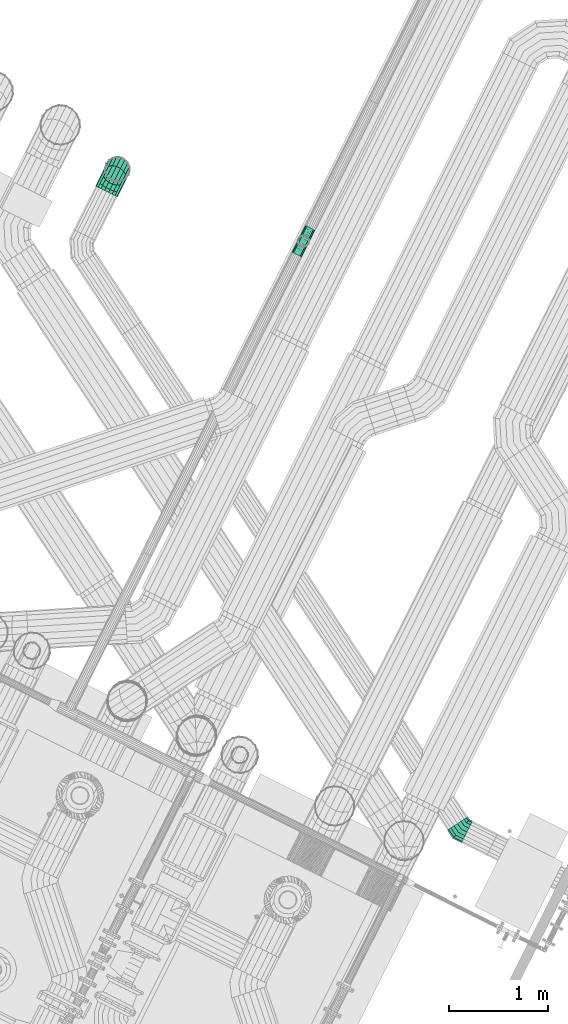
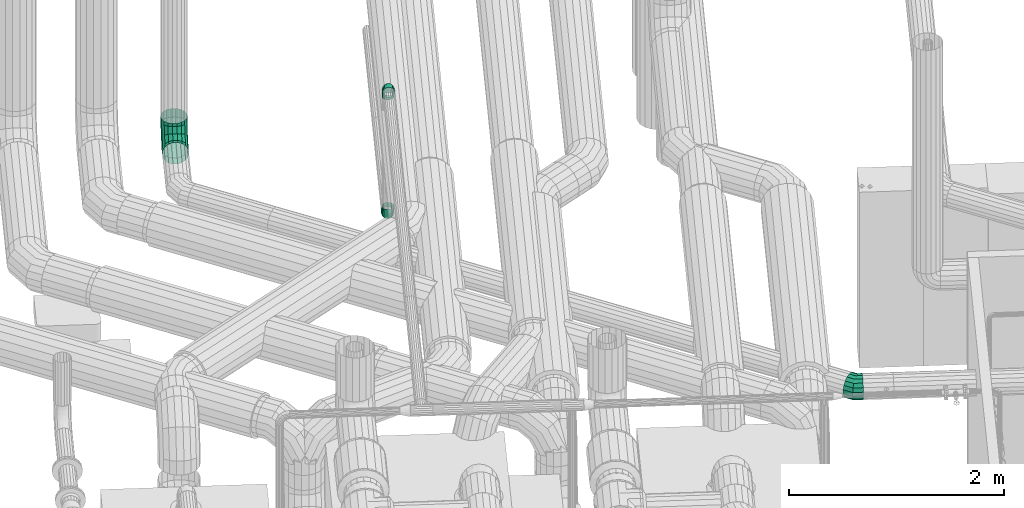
# One storey, part 138 of 206: 2 flow fittings, 2 flow segments.
"""IFC2X3 building model written with IfcOpenShell, lengths in metres."""

from ifc_helpers import new_model, si_unit, derived_unit, direction, frame, origin, place, context, subcontext, project, spatial, face_set, surface_model, source, transform, mapped, material, type_object, type_shapes, element, save


model = new_model("IFC2X3")

# Units and contexts
model_context = context("Model", 3, precision=5.2338327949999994e-05, world=origin(), true_north=direction((0.0, 1.0)))
body_context = subcontext(model_context, "Body", "Model", "MODEL_VIEW")
ifc_project = project(units=[si_unit("LENGTHUNIT", "METRE"), si_unit("AREAUNIT", "SQUARE_METRE"), si_unit("VOLUMEUNIT", "CUBIC_METRE"), si_unit("MASSUNIT", "GRAM", prefix="KILO"), si_unit("PLANEANGLEUNIT", "RADIAN"), derived_unit("THERMALTRANSMITTANCEUNIT", [(si_unit("MASSUNIT", "GRAM", prefix="KILO"), 1), (si_unit("THERMODYNAMICTEMPERATUREUNIT", "KELVIN"), -1), (si_unit("TIMEUNIT", "SECOND"), -3)])], contexts=[model_context])

# Site, building, storey
site_placement = place(None, frame((0.0, 0.0, 0.0), z_axis=(0.0, 0.0, 1.0), x_axis=(0.8939966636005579, -0.4480736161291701, 0.0)))
site = spatial("IfcSite", under=ifc_project, at=site_placement, Name="Default", CompositionType="ELEMENT")
building_placement = place(site_placement, origin())
building = spatial("IfcBuilding", under=site, at=building_placement, CompositionType="ELEMENT")
storey_placement = place(building_placement, origin())
storey = spatial("IfcBuildingStorey", under=building, at=storey_placement, Name="Erdgeschoss", CompositionType="ELEMENT", Elevation=0.0)

# Flow fittings
ifc_material_1 = material(Name="IfcSurfaceStyle #251447")
distribution_element_type_1 = type_object("IfcDistributionElementType", Name="Segmentbogen 2 teilig:Segmentbogen 2 teilig", material=ifc_material_1)
shared_shape_1 = source(origin(), body_context, "Body", "SurfaceModel", [
    surface_model("IfcFaceBasedSurfaceModel", [(27.84421569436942, 8.79460368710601, 2.3249999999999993), (27.84421569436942, 8.837356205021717, 2.317461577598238), (27.788683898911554, 8.837356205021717, 2.317461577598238), (27.77722839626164, 8.79460368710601, 2.3249999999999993), (27.84421569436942, 8.874952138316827, 2.2957555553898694), (27.798757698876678, 8.874952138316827, 2.2957555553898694), (27.84421569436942, 8.90285686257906, 2.2624999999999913), (27.80623474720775, 8.90285686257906, 2.2624999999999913), (27.84421569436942, 8.917704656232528, 2.2217060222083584), (27.810213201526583, 8.917704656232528, 2.2217060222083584), (27.84421569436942, 8.917704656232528, 2.1782939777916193), (27.810213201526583, 8.917704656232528, 2.1782939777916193), (27.84421569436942, 8.902856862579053, 2.137499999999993), (27.80623474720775, 8.902856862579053, 2.137499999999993), (27.84421569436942, 8.874952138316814, 2.1042444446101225), (27.798757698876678, 8.874952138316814, 2.1042444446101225), (27.84421569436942, 8.837356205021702, 2.0825384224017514), (27.788683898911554, 8.837356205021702, 2.0825384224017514), (27.84421569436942, 8.794603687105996, 2.0750000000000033), (27.77722839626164, 8.794603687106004, 2.0750000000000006), (27.84421569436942, 8.751851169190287, 2.0825384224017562), (27.76577289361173, 8.751851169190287, 2.0825384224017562), (27.84421569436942, 8.714255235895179, 2.1042444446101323), (27.755699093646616, 8.714255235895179, 2.1042444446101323), (27.84421569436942, 8.686350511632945, 2.137500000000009), (27.748222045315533, 8.686350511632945, 2.137500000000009), (27.84421569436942, 8.671502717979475, 2.178293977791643), (27.7442435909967, 8.671502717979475, 2.178293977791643), (27.84421569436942, 8.671502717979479, 2.221706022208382), (27.7442435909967, 8.671502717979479, 2.221706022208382), (27.84421569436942, 8.686350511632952, 2.2625000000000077), (27.748222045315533, 8.686350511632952, 2.2625000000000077), (27.84421569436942, 8.714255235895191, 2.2957555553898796), (27.755699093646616, 8.714255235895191, 2.2957555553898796), (27.84421569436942, 8.751851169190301, 2.3174615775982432), (27.76577289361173, 8.751851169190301, 2.3174615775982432), (27.740591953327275, 8.865122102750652, 2.317461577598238), (27.719215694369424, 8.828097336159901, 2.3249999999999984), (27.759389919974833, 8.8976811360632, 2.2957555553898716), (27.77334228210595, 8.9218473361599, 2.262499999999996), (27.78076617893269, 8.934705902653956, 2.221706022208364), (27.78076617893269, 8.934705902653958, 2.1782939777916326), (27.77334228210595, 8.921847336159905, 2.1374999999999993), (27.759389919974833, 8.897681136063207, 2.104244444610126), (27.740591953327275, 8.865122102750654, 2.0825384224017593), (27.719215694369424, 8.828097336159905, 2.075000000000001), (27.697839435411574, 8.791072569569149, 2.0825384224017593), (27.67904146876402, 8.758513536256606, 2.104244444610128), (27.665089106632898, 8.734347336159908, 2.1375), (27.65766520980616, 8.721488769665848, 2.1782939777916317), (27.65766520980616, 8.721488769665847, 2.2217060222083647), (27.665089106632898, 8.734347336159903, 2.262499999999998), (27.67904146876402, 8.7585135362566, 2.2957555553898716), (27.697839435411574, 8.791072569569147, 2.317461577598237)], [face_set([[[0, 1, 2, 3]], [[1, 4, 5, 2]], [[4, 6, 7, 5]], [[6, 8, 9, 7]], [[8, 10, 11, 9]], [[10, 12, 13, 11]], [[12, 14, 15, 13]], [[14, 16, 17, 15]], [[16, 18, 19, 17]], [[18, 20, 21, 19]], [[20, 22, 23, 21]], [[22, 24, 25, 23]], [[24, 26, 27, 25]], [[26, 28, 29, 27]], [[28, 30, 31, 29]], [[30, 32, 33, 31]], [[32, 34, 35, 33]], [[34, 0, 3, 35]], [[3, 2, 36, 37]], [[2, 5, 38, 36]], [[5, 7, 39, 38]], [[7, 9, 40, 39]], [[9, 11, 41, 40]], [[11, 13, 42, 41]], [[13, 15, 43, 42]], [[15, 17, 44, 43]], [[17, 19, 45, 44]], [[19, 21, 46, 45]], [[21, 23, 47, 46]], [[23, 25, 48, 47]], [[25, 27, 49, 48]], [[27, 29, 50, 49]], [[29, 31, 51, 50]], [[31, 33, 52, 51]], [[33, 35, 53, 52]], [[35, 3, 37, 53]]])]),
])
type_shapes(distribution_element_type_1, [shared_shape_1])
flow_fitting_1_placement = place(storey_placement, origin())
element("IfcFlowFitting", 1, at=flow_fitting_1_placement, inside=storey, type_object=distribution_element_type_1, material=ifc_material_1, Name="Segmentbogen 2 teilig", ObjectType="Segmentbogen 2 teilig", context=body_context, shape_type="MappedRepresentation", body=[
    mapped(shared_shape_1, transform((0.0, 0.0, 0.0), scale=1.0)),
])
distribution_element_type_2 = type_object("IfcDistributionElementType", Name="Segmentbogen 4 teilig 284962:Segmentbogen 4 teilig 284962", material=ifc_material_1)
shared_shape_2 = source(origin(), body_context, "Body", "SurfaceModel", [
    surface_model("IfcFaceBasedSurfaceModel", [(21.799770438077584, 13.205337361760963, 2.4499999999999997), (21.79223201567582, 13.162584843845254, 2.4499999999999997), (21.79223201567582, 13.162584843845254, 2.394468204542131), (21.799770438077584, 13.205337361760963, 2.3830127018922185), (21.770525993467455, 13.124988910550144, 2.4499999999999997), (21.770525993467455, 13.124988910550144, 2.4045420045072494), (21.73727043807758, 13.097084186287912, 2.4499999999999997), (21.73727043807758, 13.097084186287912, 2.4120190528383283), (21.696476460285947, 13.082236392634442, 2.4499999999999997), (21.696476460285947, 13.082236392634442, 2.41599750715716), (21.65306441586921, 13.082236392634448, 2.4499999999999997), (21.65306441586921, 13.082236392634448, 2.41599750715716), (21.612270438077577, 13.097084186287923, 2.4499999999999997), (21.612270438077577, 13.097084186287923, 2.4120190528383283), (21.57901488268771, 13.124988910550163, 2.4499999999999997), (21.57901488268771, 13.124988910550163, 2.4045420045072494), (21.557308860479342, 13.16258484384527, 2.4499999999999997), (21.557308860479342, 13.16258484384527, 2.394468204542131), (21.549770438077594, 13.205337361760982, 2.4499999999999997), (21.549770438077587, 13.205337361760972, 2.3830127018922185), (21.557308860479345, 13.248089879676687, 2.4499999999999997), (21.557308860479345, 13.248089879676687, 2.3715571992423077), (21.579014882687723, 13.2856858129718, 2.4499999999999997), (21.579014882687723, 13.2856858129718, 2.3614833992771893), (21.612270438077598, 13.313590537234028, 2.4499999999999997), (21.612270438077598, 13.313590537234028, 2.354006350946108), (21.65306441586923, 13.328438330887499, 2.4499999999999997), (21.65306441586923, 13.328438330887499, 2.3500278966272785), (21.696476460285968, 13.328438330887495, 2.4499999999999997), (21.696476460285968, 13.328438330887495, 2.3500278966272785), (21.737270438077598, 13.313590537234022, 2.4499999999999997), (21.737270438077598, 13.313590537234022, 2.354006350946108), (21.77052599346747, 13.285685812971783, 2.4499999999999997), (21.77052599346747, 13.285685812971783, 2.3614833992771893), (21.792232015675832, 13.24808987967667, 2.4499999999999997), (21.792232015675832, 13.24808987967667, 2.3715571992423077), (21.792232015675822, 13.107053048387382, 2.298284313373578), (21.799770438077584, 13.13835006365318, 2.266987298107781), (21.77052599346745, 13.079530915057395, 2.3258064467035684), (21.73727043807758, 13.059103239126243, 2.3462341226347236), (21.696476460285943, 13.048233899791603, 2.3571034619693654), (21.6530644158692, 13.048233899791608, 2.3571034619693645), (21.612270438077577, 13.05910323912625, 2.3462341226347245), (21.5790148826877, 13.07953091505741, 2.3258064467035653), (21.557308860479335, 13.1070530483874, 2.2982843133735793), (21.549770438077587, 13.1383500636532, 2.2669872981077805), (21.557308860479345, 13.169647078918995, 2.235690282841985), (21.579014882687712, 13.197169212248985, 2.2081681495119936), (21.612270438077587, 13.217596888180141, 2.187740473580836), (21.653064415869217, 13.228466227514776, 2.176871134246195), (21.696476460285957, 13.228466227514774, 2.176871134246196), (21.737270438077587, 13.217596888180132, 2.1877404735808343), (21.770525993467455, 13.197169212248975, 2.208168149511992), (21.792232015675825, 13.16964707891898, 2.2356902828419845), (21.79223201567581, 13.010869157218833, 2.2427525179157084), (21.79977043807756, 13.022324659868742, 2.199999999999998), (21.77052599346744, 13.000795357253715, 2.280348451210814), (21.737270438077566, 12.993318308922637, 2.308253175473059), (21.696476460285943, 12.989339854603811, 2.3231009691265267), (21.6530644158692, 12.989339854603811, 2.3231009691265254), (21.61227043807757, 12.993318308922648, 2.3082531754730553), (21.579014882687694, 13.00079535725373, 2.280348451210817), (21.557308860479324, 13.010869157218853, 2.2427525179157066), (21.549770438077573, 13.022324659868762, 2.199999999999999), (21.557308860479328, 13.033780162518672, 2.157247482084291), (21.579014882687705, 13.04385396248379, 2.11965154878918), (21.612270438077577, 13.051331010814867, 2.091746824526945), (21.6530644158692, 13.055309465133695, 2.076899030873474), (21.696476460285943, 13.055309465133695, 2.076899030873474), (21.73727043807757, 13.051331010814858, 2.0917468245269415), (21.77052599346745, 13.043853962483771, 2.119651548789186), (21.79223201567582, 13.033780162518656, 2.157247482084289), (21.79223201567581, 12.955337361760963, 2.2427525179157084), (21.79977043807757, 12.955337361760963, 2.2000000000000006), (21.77052599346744, 12.955337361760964, 2.280348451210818), (21.737270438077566, 12.955337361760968, 2.3082531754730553), (21.696476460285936, 12.95533736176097, 2.3231009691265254), (21.6530644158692, 12.955337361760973, 2.3231009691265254), (21.61227043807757, 12.955337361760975, 2.3082531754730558), (21.57901488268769, 12.95533736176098, 2.2803484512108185), (21.557308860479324, 12.955337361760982, 2.2427525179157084), (21.54977043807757, 12.955337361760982, 2.1999999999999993), (21.557308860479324, 12.955337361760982, 2.1572474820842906), (21.579014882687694, 12.95533736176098, 2.1196515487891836), (21.61227043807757, 12.955337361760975, 2.0917468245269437), (21.6530644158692, 12.955337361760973, 2.0768990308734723), (21.696476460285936, 12.95533736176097, 2.076899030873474), (21.737270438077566, 12.955337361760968, 2.0917468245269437), (21.770525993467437, 12.955337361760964, 2.119651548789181), (21.79223201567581, 12.955337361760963, 2.157247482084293)], [face_set([[[0, 1, 2, 3]], [[1, 4, 5, 2]], [[4, 6, 7, 5]], [[6, 8, 9, 7]], [[8, 10, 11, 9]], [[10, 12, 13, 11]], [[12, 14, 15, 13]], [[14, 16, 17, 15]], [[16, 18, 19, 17]], [[18, 20, 21, 19]], [[20, 22, 23, 21]], [[22, 24, 25, 23]], [[24, 26, 27, 25]], [[26, 28, 29, 27]], [[28, 30, 31, 29]], [[30, 32, 33, 31]], [[32, 34, 35, 33]], [[34, 0, 3, 35]], [[3, 2, 36, 37]], [[2, 5, 38, 36]], [[5, 7, 39, 38]], [[7, 9, 40, 39]], [[9, 11, 41, 40]], [[11, 13, 42, 41]], [[13, 15, 43, 42]], [[15, 17, 44, 43]], [[17, 19, 45, 44]], [[19, 21, 46, 45]], [[21, 23, 47, 46]], [[23, 25, 48, 47]], [[25, 27, 49, 48]], [[27, 29, 50, 49]], [[29, 31, 51, 50]], [[31, 33, 52, 51]], [[33, 35, 53, 52]], [[35, 3, 37, 53]], [[37, 36, 54, 55]], [[36, 38, 56, 54]], [[38, 39, 57, 56]], [[39, 40, 58, 57]], [[40, 41, 59, 58]], [[41, 42, 60, 59]], [[42, 43, 61, 60]], [[43, 44, 62, 61]], [[44, 45, 63, 62]], [[45, 46, 64, 63]], [[46, 47, 65, 64]], [[47, 48, 66, 65]], [[48, 49, 67, 66]], [[49, 50, 68, 67]], [[50, 51, 69, 68]], [[51, 52, 70, 69]], [[52, 53, 71, 70]], [[53, 37, 55, 71]], [[55, 54, 72, 73]], [[54, 56, 74, 72]], [[56, 57, 75, 74]], [[57, 58, 76, 75]], [[58, 59, 77, 76]], [[59, 60, 78, 77]], [[60, 61, 79, 78]], [[61, 62, 80, 79]], [[62, 63, 81, 80]], [[63, 64, 82, 81]], [[64, 65, 83, 82]], [[65, 66, 84, 83]], [[66, 67, 85, 84]], [[67, 68, 86, 85]], [[68, 69, 87, 86]], [[69, 70, 88, 87]], [[70, 71, 89, 88]], [[71, 55, 73, 89]]])]),
])
type_shapes(distribution_element_type_2, [shared_shape_2])
flow_fitting_2_placement = place(storey_placement, origin())
element("IfcFlowFitting", 2, at=flow_fitting_2_placement, inside=storey, type_object=distribution_element_type_2, material=ifc_material_1, Name="Segmentbogen 4 teilig", ObjectType="Segmentbogen 4 teilig", context=body_context, shape_type="MappedRepresentation", body=[
    mapped(shared_shape_2, transform((0.0, 0.0, 0.0), scale=1.0)),
])

# Flow segments
ifc_material_2 = material(Name="IfcSurfaceStyle #352577")
distribution_element_type_3 = type_object("IfcDistributionElementType", Name="Rohrbogen 352546:Rohrbogen 352546", material=ifc_material_2)
shared_shape_3 = source(origin(), body_context, "Body", "SurfaceModel", [
    surface_model("IfcFaceBasedSurfaceModel", [(23.68383026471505, 13.552101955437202, 1.0), (23.703376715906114, 13.552101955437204, 1.0034465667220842), (23.70337671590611, 13.488536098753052, 1.0135144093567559), (23.68383026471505, 13.487471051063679, 1.0102365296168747), (23.70337671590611, 13.431192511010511, 1.0427324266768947), (23.68383026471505, 13.429166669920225, 1.0399440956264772), (23.703376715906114, 13.385684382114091, 1.0882405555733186), (23.68383026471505, 13.382896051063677, 1.086214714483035), (23.703376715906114, 13.356466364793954, 1.1455841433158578), (23.683830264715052, 13.353188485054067, 1.1445190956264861), (23.703376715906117, 13.346398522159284, 1.209150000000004), (23.683830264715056, 13.342951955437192, 1.2091500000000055), (23.72056557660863, 13.552101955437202, 1.0133705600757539), (23.72056557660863, 13.491602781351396, 1.0229526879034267), (23.72056557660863, 13.437025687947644, 1.0507611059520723), (23.72056557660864, 13.393713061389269, 1.0940737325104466), (23.720565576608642, 13.36590464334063, 1.1486508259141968), (23.720565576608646, 13.356322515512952, 1.209150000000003), (23.73332361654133, 13.552101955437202, 1.028574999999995), (23.73332361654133, 13.496301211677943, 1.0374129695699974), (23.73332361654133, 13.445962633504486, 1.0630617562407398), (23.73332361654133, 13.40601371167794, 1.1030106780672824), (23.733323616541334, 13.380364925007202, 1.1533492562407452), (23.733323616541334, 13.3715269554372, 1.2091499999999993), (23.740112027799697, 13.552101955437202, 1.047226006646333), (23.740112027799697, 13.50206468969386, 1.0551511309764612), (23.740112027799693, 13.45692542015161, 1.0781507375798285), (23.740112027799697, 13.421102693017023, 1.1139734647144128), (23.740112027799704, 13.39810308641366, 1.159112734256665), (23.740112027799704, 13.39017796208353, 1.2091500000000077), (23.740112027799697, 13.552101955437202, 1.0670739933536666), (23.740112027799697, 13.508198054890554, 1.074027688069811), (23.740112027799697, 13.468591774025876, 1.0942080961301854), (23.740112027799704, 13.437160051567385, 1.1256398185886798), (23.740112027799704, 13.416979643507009, 1.1652460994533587), (23.74011202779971, 13.410025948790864, 1.2091500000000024), (23.733323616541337, 13.552101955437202, 1.085725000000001), (23.733323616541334, 13.513961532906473, 1.0917658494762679), (23.733323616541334, 13.479554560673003, 1.1092970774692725), (23.733323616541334, 13.45224903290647, 1.136602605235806), (23.733323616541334, 13.43471780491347, 1.1710095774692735), (23.733323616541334, 13.428676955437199, 1.2091500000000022), (23.72056557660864, 13.552101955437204, 1.1009294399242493), (23.72056557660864, 13.51865996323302, 1.1062261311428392), (23.720565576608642, 13.488491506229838, 1.121597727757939), (23.720565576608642, 13.464549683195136, 1.1455395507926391), (23.720565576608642, 13.44917808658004, 1.1757080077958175), (23.720565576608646, 13.443881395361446, 1.2091499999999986), (23.703376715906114, 13.552101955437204, 1.1108534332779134), (23.703376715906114, 13.521726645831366, 1.1156644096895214), (23.703376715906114, 13.494324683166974, 1.1296264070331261), (23.703376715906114, 13.472578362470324, 1.1513727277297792), (23.703376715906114, 13.45861636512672, 1.1787746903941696), (23.703376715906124, 13.453805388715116, 1.2091500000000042), (23.683830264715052, 13.552101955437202, 1.114300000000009), (23.683830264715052, 13.522791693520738, 1.1189422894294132), (23.683830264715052, 13.49635052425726, 1.1324147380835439), (23.683830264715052, 13.475366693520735, 1.1533985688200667), (23.683830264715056, 13.461894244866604, 1.1798397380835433), (23.683830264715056, 13.457251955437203, 1.2091500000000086), (23.66428381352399, 13.552101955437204, 1.1108534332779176), (23.66428381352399, 13.521726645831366, 1.1156644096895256), (23.66428381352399, 13.494324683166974, 1.129626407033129), (23.66428381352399, 13.472578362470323, 1.1513727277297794), (23.664283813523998, 13.458616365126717, 1.1787746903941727), (23.664283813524, 13.453805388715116, 1.2091500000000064), (23.64709495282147, 13.552101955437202, 1.1009294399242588), (23.64709495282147, 13.51865996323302, 1.1062261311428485), (23.64709495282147, 13.48849150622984, 1.1215977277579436), (23.647094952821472, 13.464549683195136, 1.1455395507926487), (23.647094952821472, 13.44917808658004, 1.1757080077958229), (23.647094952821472, 13.443881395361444, 1.209150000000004), (23.63433691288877, 13.552101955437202, 1.0857250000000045), (23.634336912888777, 13.513961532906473, 1.0917658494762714), (23.63433691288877, 13.479554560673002, 1.1092970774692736), (23.634336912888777, 13.45224903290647, 1.13660260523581), (23.634336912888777, 13.43471780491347, 1.17100957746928), (23.63433691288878, 13.428676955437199, 1.2091500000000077), (23.627548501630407, 13.552101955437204, 1.0670739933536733), (23.627548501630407, 13.508198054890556, 1.0740276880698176), (23.627548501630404, 13.468591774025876, 1.0942080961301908), (23.627548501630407, 13.437160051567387, 1.1256398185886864), (23.627548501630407, 13.416979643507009, 1.1652460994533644), (23.627548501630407, 13.410025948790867, 1.2091500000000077), (23.6275485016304, 13.552101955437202, 1.0472260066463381), (23.6275485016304, 13.502064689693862, 1.0551511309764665), (23.6275485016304, 13.45692542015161, 1.0781507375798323), (23.627548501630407, 13.421102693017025, 1.1139734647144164), (23.627548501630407, 13.39810308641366, 1.1591127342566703), (23.627548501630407, 13.39017796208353, 1.209150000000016), (23.634336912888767, 13.552101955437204, 1.0285750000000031), (23.634336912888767, 13.496301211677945, 1.0374129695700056), (23.634336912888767, 13.445962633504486, 1.0630617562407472), (23.63433691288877, 13.406013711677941, 1.103010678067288), (23.63433691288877, 13.380364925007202, 1.1533492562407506), (23.63433691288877, 13.371526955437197, 1.2091500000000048), (23.647094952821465, 13.552101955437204, 1.0133705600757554), (23.647094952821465, 13.491602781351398, 1.0229526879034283), (23.647094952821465, 13.437025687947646, 1.0507611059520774), (23.64709495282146, 13.393713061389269, 1.094073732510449), (23.647094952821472, 13.365904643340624, 1.1486508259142), (23.647094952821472, 13.356322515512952, 1.2091500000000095), (23.664283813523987, 13.552101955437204, 1.0034465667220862), (23.664283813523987, 13.488536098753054, 1.0135144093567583), (23.664283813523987, 13.431192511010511, 1.042732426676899), (23.664283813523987, 13.385684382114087, 1.0882405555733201), (23.664283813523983, 13.356466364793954, 1.1455841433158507), (23.664283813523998, 13.346398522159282, 1.209150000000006)], [face_set([[[0, 1, 2, 3]], [[3, 2, 4, 5]], [[5, 4, 6, 7]], [[7, 6, 8, 9]], [[9, 8, 10, 11]], [[1, 12, 13, 2]], [[2, 13, 14, 4]], [[4, 14, 15, 6]], [[6, 15, 16, 8]], [[8, 16, 17, 10]], [[12, 18, 19, 13]], [[13, 19, 20, 14]], [[14, 20, 21, 15]], [[15, 21, 22, 16]], [[16, 22, 23, 17]], [[18, 24, 25, 19]], [[19, 25, 26, 20]], [[20, 26, 27, 21]], [[21, 27, 28, 22]], [[22, 28, 29, 23]], [[24, 30, 31, 25]], [[25, 31, 32, 26]], [[26, 32, 33, 27]], [[27, 33, 34, 28]], [[28, 34, 35, 29]], [[30, 36, 37, 31]], [[31, 37, 38, 32]], [[32, 38, 39, 33]], [[33, 39, 40, 34]], [[34, 40, 41, 35]], [[36, 42, 43, 37]], [[37, 43, 44, 38]], [[38, 44, 45, 39]], [[39, 45, 46, 40]], [[40, 46, 47, 41]], [[42, 48, 49, 43]], [[43, 49, 50, 44]], [[44, 50, 51, 45]], [[45, 51, 52, 46]], [[46, 52, 53, 47]], [[48, 54, 55, 49]], [[49, 55, 56, 50]], [[50, 56, 57, 51]], [[51, 57, 58, 52]], [[52, 58, 59, 53]], [[54, 60, 61, 55]], [[55, 61, 62, 56]], [[56, 62, 63, 57]], [[57, 63, 64, 58]], [[58, 64, 65, 59]], [[60, 66, 67, 61]], [[61, 67, 68, 62]], [[62, 68, 69, 63]], [[63, 69, 70, 64]], [[64, 70, 71, 65]], [[66, 72, 73, 67]], [[67, 73, 74, 68]], [[68, 74, 75, 69]], [[69, 75, 76, 70]], [[70, 76, 77, 71]], [[72, 78, 79, 73]], [[73, 79, 80, 74]], [[74, 80, 81, 75]], [[75, 81, 82, 76]], [[76, 82, 83, 77]], [[78, 84, 85, 79]], [[79, 85, 86, 80]], [[80, 86, 87, 81]], [[81, 87, 88, 82]], [[82, 88, 89, 83]], [[84, 90, 91, 85]], [[85, 91, 92, 86]], [[86, 92, 93, 87]], [[87, 93, 94, 88]], [[88, 94, 95, 89]], [[90, 96, 97, 91]], [[91, 97, 98, 92]], [[92, 98, 99, 93]], [[93, 99, 100, 94]], [[94, 100, 101, 95]], [[96, 102, 103, 97]], [[97, 103, 104, 98]], [[98, 104, 105, 99]], [[102, 0, 3, 103]], [[103, 3, 5, 104]], [[104, 5, 7, 105]], [[99, 105, 106, 100]], [[100, 106, 107, 101]], [[105, 7, 9, 106]], [[106, 9, 11, 107]]])]),
])
type_shapes(distribution_element_type_3, [shared_shape_3])
flow_segment_1_placement = place(storey_placement, origin())
element("IfcFlowSegment", 3, at=flow_segment_1_placement, inside=storey, type_object=distribution_element_type_3, material=ifc_material_2, Name="Rohrbogen", ObjectType="Rohrbogen", context=body_context, shape_type="MappedRepresentation", body=[
    mapped(shared_shape_3, transform((0.0, 0.0, 0.0), scale=1.0)),
])
distribution_element_type_4 = type_object("IfcDistributionElementType", Name="Rohrbogen 352747:Rohrbogen 352747", material=ifc_material_2)
shared_shape_4 = source(origin(), body_context, "Body", "SurfaceModel", [
    surface_model("IfcFaceBasedSurfaceModel", [(23.68383026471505, 13.248101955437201, 2.662314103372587), (23.703376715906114, 13.248101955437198, 2.6588675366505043), (23.70337671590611, 13.31166781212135, 2.6487996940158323), (23.68383026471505, 13.31273285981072, 2.6520775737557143), (23.70337671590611, 13.369011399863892, 2.6195816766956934), (23.68383026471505, 13.371037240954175, 2.6223700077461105), (23.703376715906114, 13.414519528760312, 2.574073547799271), (23.68383026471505, 13.417307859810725, 2.5760993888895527), (23.703376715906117, 13.44373754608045, 2.516729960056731), (23.683830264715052, 13.447015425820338, 2.517795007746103), (23.703376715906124, 13.453805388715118, 2.4531641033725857), (23.683830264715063, 13.457251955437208, 2.4531641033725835), (23.72056557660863, 13.248101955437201, 2.6489435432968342), (23.72056557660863, 13.308601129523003, 2.6393614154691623), (23.72056557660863, 13.36317822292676, 2.611552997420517), (23.720565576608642, 13.406490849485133, 2.5682403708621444), (23.720565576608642, 13.434299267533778, 2.513663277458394), (23.720565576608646, 13.443881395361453, 2.4531641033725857), (23.73332361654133, 13.248101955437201, 2.6337391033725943), (23.73332361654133, 13.303902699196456, 2.6249011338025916), (23.73332361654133, 13.354241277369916, 2.5992523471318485), (23.733323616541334, 13.394190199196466, 2.5593034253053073), (23.733323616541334, 13.4198389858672, 2.508964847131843), (23.733323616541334, 13.428676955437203, 2.4531641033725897), (23.740112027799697, 13.248101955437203, 2.6150880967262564), (23.740112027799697, 13.298139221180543, 2.6071629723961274), (23.740112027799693, 13.343278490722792, 2.5841633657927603), (23.740112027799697, 13.379101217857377, 2.548340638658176), (23.740112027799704, 13.402100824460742, 2.5032013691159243), (23.740112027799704, 13.41002594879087, 2.4531641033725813), (23.740112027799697, 13.248101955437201, 2.5952401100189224), (23.740112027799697, 13.292005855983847, 2.5882864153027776), (23.740112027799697, 13.331612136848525, 2.5681060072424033), (23.740112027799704, 13.363043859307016, 2.536674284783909), (23.740112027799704, 13.383224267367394, 2.497068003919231), (23.74011202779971, 13.390177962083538, 2.4531641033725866), (23.733323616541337, 13.248101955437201, 2.5765891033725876), (23.733323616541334, 13.286242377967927, 2.570548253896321), (23.733323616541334, 13.3206493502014, 2.5530170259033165), (23.733323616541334, 13.34795487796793, 2.5257114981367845), (23.733323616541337, 13.365486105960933, 2.4913045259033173), (23.733323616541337, 13.3715269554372, 2.4531641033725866), (23.720565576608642, 13.248101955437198, 2.5613846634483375), (23.720565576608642, 13.281543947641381, 2.5560879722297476), (23.720565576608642, 13.311712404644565, 2.5407163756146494), (23.720565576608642, 13.335654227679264, 2.516774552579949), (23.720565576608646, 13.351025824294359, 2.4866060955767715), (23.720565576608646, 13.356322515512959, 2.45316410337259), (23.703376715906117, 13.248101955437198, 2.5514606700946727), (23.703376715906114, 13.278477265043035, 2.5466496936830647), (23.703376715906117, 13.305879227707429, 2.532687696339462), (23.703376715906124, 13.32762554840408, 2.510941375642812), (23.703376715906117, 13.341587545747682, 2.483539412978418), (23.703376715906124, 13.346398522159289, 2.4531641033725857), (23.683830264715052, 13.248101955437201, 2.5480141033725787), (23.683830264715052, 13.277412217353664, 2.543371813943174), (23.683830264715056, 13.303853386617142, 2.529899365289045), (23.683830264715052, 13.324837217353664, 2.508915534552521), (23.683830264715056, 13.338309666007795, 2.482474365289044), (23.683830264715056, 13.3429519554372, 2.4531641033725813), (23.66428381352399, 13.248101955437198, 2.551460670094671), (23.66428381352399, 13.278477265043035, 2.5466496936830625), (23.66428381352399, 13.305879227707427, 2.5326876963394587), (23.664283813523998, 13.32762554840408, 2.5109413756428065), (23.664283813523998, 13.341587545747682, 2.483539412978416), (23.664283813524, 13.346398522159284, 2.4531641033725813), (23.64709495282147, 13.248101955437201, 2.5613846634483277), (23.647094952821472, 13.281543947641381, 2.5560879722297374), (23.647094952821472, 13.311712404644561, 2.5407163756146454), (23.647094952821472, 13.335654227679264, 2.516774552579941), (23.647094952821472, 13.351025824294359, 2.4866060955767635), (23.647094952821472, 13.356322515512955, 2.453164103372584), (23.63433691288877, 13.248101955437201, 2.576589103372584), (23.634336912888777, 13.286242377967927, 2.570548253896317), (23.634336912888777, 13.3206493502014, 2.55301702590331), (23.634336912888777, 13.347954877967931, 2.5257114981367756), (23.63433691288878, 13.365486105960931, 2.4913045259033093), (23.63433691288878, 13.3715269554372, 2.45316410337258), (23.627548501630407, 13.248101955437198, 2.5952401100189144), (23.627548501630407, 13.292005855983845, 2.58828641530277), (23.627548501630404, 13.331612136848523, 2.5681060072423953), (23.627548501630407, 13.363043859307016, 2.536674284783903), (23.627548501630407, 13.383224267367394, 2.4970680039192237), (23.627548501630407, 13.390177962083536, 2.45316410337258), (23.627548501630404, 13.248101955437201, 2.61508809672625), (23.627548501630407, 13.29813922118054, 2.6071629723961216), (23.627548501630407, 13.343278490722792, 2.5841633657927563), (23.627548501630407, 13.379101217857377, 2.548340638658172), (23.627548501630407, 13.40210082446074, 2.5032013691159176), (23.62754850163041, 13.41002594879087, 2.453164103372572), (23.634336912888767, 13.248101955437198, 2.6337391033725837), (23.634336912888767, 13.303902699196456, 2.6249011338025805), (23.634336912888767, 13.354241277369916, 2.5992523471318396), (23.63433691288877, 13.39419019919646, 2.5593034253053), (23.63433691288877, 13.4198389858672, 2.5089648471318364), (23.634336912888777, 13.428676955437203, 2.4531641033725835), (23.647094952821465, 13.248101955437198, 2.648943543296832), (23.647094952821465, 13.308601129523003, 2.639361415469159), (23.647094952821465, 13.363178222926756, 2.611552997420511), (23.647094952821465, 13.406490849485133, 2.5682403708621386), (23.647094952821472, 13.434299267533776, 2.5136632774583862), (23.647094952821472, 13.443881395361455, 2.453164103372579), (23.664283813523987, 13.248101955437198, 2.6588675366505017), (23.664283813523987, 13.311667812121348, 2.6487996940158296), (23.664283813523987, 13.369011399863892, 2.6195816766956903), (23.664283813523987, 13.414519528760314, 2.5740735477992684), (23.664283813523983, 13.443737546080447, 2.5167299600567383), (23.664283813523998, 13.453805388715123, 2.453164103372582)], [face_set([[[0, 1, 2, 3]], [[3, 2, 4, 5]], [[5, 4, 6, 7]], [[7, 6, 8, 9]], [[9, 8, 10, 11]], [[1, 12, 13, 2]], [[2, 13, 14, 4]], [[4, 14, 15, 6]], [[6, 15, 16, 8]], [[8, 16, 17, 10]], [[12, 18, 19, 13]], [[13, 19, 20, 14]], [[14, 20, 21, 15]], [[15, 21, 22, 16]], [[16, 22, 23, 17]], [[18, 24, 25, 19]], [[19, 25, 26, 20]], [[20, 26, 27, 21]], [[21, 27, 28, 22]], [[22, 28, 29, 23]], [[24, 30, 31, 25]], [[25, 31, 32, 26]], [[26, 32, 33, 27]], [[27, 33, 34, 28]], [[28, 34, 35, 29]], [[30, 36, 37, 31]], [[31, 37, 38, 32]], [[32, 38, 39, 33]], [[33, 39, 40, 34]], [[34, 40, 41, 35]], [[36, 42, 43, 37]], [[37, 43, 44, 38]], [[38, 44, 45, 39]], [[39, 45, 46, 40]], [[40, 46, 47, 41]], [[42, 48, 49, 43]], [[43, 49, 50, 44]], [[44, 50, 51, 45]], [[45, 51, 52, 46]], [[46, 52, 53, 47]], [[48, 54, 55, 49]], [[49, 55, 56, 50]], [[50, 56, 57, 51]], [[51, 57, 58, 52]], [[52, 58, 59, 53]], [[54, 60, 61, 55]], [[55, 61, 62, 56]], [[56, 62, 63, 57]], [[57, 63, 64, 58]], [[58, 64, 65, 59]], [[60, 66, 67, 61]], [[61, 67, 68, 62]], [[62, 68, 69, 63]], [[63, 69, 70, 64]], [[64, 70, 71, 65]], [[66, 72, 73, 67]], [[67, 73, 74, 68]], [[68, 74, 75, 69]], [[69, 75, 76, 70]], [[70, 76, 77, 71]], [[72, 78, 79, 73]], [[73, 79, 80, 74]], [[74, 80, 81, 75]], [[75, 81, 82, 76]], [[76, 82, 83, 77]], [[78, 84, 85, 79]], [[79, 85, 86, 80]], [[80, 86, 87, 81]], [[81, 87, 88, 82]], [[82, 88, 89, 83]], [[84, 90, 91, 85]], [[85, 91, 92, 86]], [[86, 92, 93, 87]], [[87, 93, 94, 88]], [[88, 94, 95, 89]], [[90, 96, 97, 91]], [[91, 97, 98, 92]], [[92, 98, 99, 93]], [[93, 99, 100, 94]], [[94, 100, 101, 95]], [[96, 102, 103, 97]], [[97, 103, 104, 98]], [[98, 104, 105, 99]], [[102, 0, 3, 103]], [[103, 3, 5, 104]], [[104, 5, 7, 105]], [[99, 105, 106, 100]], [[100, 106, 107, 101]], [[105, 7, 9, 106]], [[106, 9, 11, 107]]])]),
])
type_shapes(distribution_element_type_4, [shared_shape_4])
flow_segment_2_placement = place(storey_placement, origin())
element("IfcFlowSegment", 4, at=flow_segment_2_placement, inside=storey, type_object=distribution_element_type_4, material=ifc_material_2, Name="Rohrbogen", ObjectType="Rohrbogen", context=body_context, shape_type="MappedRepresentation", body=[
    mapped(shared_shape_4, transform((0.0, 0.0, 0.0), scale=1.0)),
])

save(model, "model.ifc")
